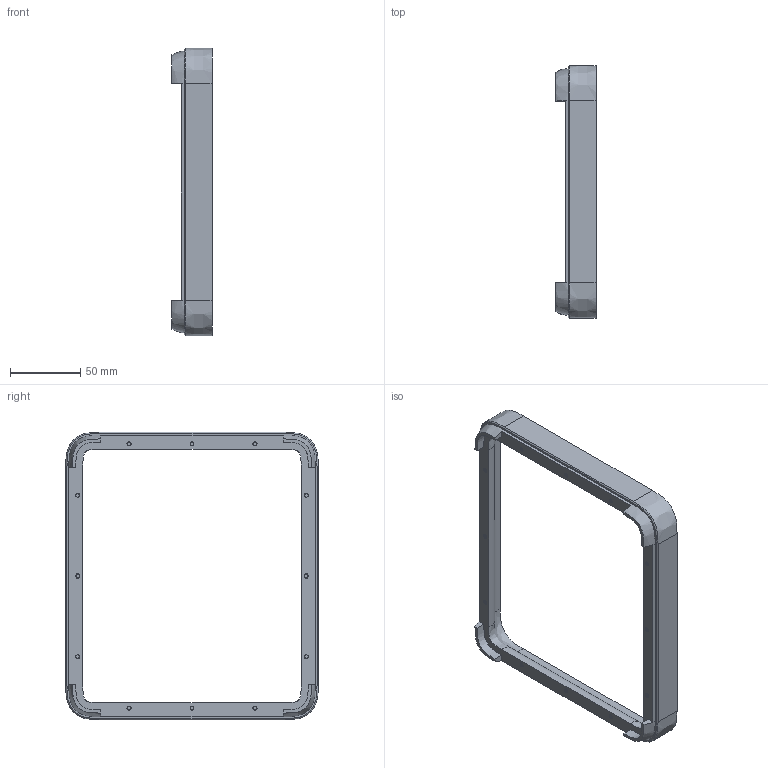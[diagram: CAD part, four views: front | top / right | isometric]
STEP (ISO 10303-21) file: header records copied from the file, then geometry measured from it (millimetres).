
FILE_DESCRIPTION(/* description */ (''),/* implementation_level */ '2;1');
FILE_NAME(/* name */ 'EXTERNAL DOOR BRACKET.step',/* time_stamp */ '2024-02-28T17:12:10Z',/* author */ (''),/* organization */ (''),/* preprocessor_version */ 'ST-DEVELOPER v20',/* originating_system */ 'Autodesk Translation Framework v12.20.1.177',/* authorisation */ '');
FILE_SCHEMA (('AUTOMOTIVE_DESIGN { 1 0 10303 214 3 1 1 }'));
Products named in the file (1): EXTERNAL DOOR BRACKET (1)
Bounding box: 28.6 x 180 x 205 mm (x, y, z)
Volume: 106264.1 mm3; surface area: 45715.1 mm2
Topology: 1 solids, 1 shells, 551 faces, 1514 edges, 978 vertices
Faces by surface type: cylinder 284, bspline 232, plane 35
Full cylindrical faces by diameter (mm): 2.529 x92, 3.086 x64
Entity records: 39648 total; most frequent: CARTESIAN_POINT 28560, ORIENTED_EDGE 3028, EDGE_CURVE 1514, B_SPLINE_CURVE_WITH_KNOTS 1122, DIRECTION 1084, VERTEX_POINT 978, EDGE_LOOP 566, FACE_OUTER_BOUND 551
